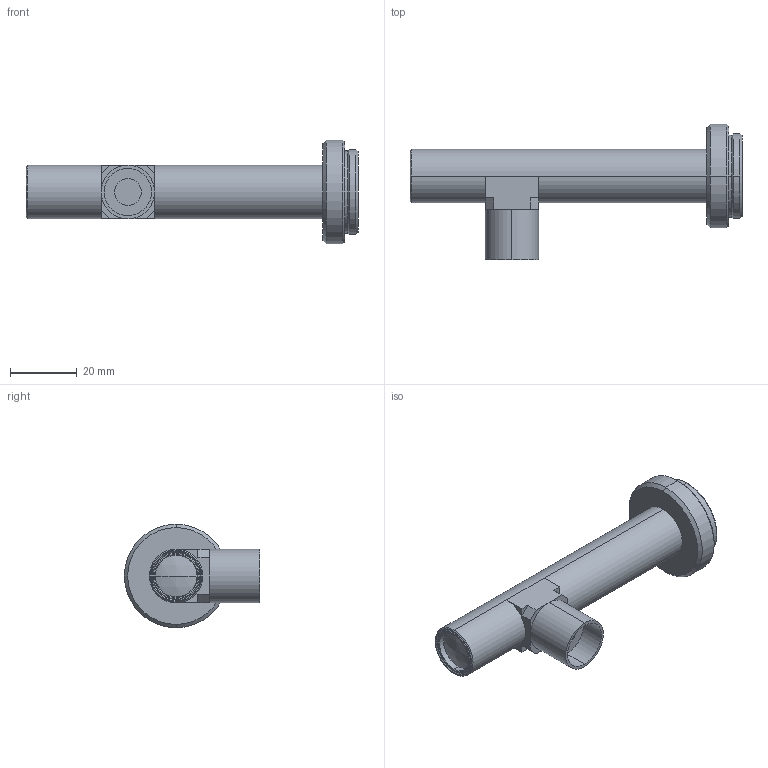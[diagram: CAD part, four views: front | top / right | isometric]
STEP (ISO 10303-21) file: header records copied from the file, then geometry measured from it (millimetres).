
FILE_DESCRIPTION (( 'STEP AP203' ), '1' );
FILE_NAME ('VS-TC1-65CO-16.STEP', '2015-07-17T07:06:17', ( 'miura_vst' ), ( '' ), 'SwSTEP 2.0', 'SolidWorks 2015', '' );
FILE_SCHEMA (( 'CONFIG_CONTROL_DESIGN' ));
Length unit declared in the file: millimetre
Products named in the file (1): VS-TC1-65CO-16
Bounding box: 99.4 x 40.5 x 31 mm (x, y, z)
Volume: 24749.1 mm3; surface area: 8891.1 mm2
Topology: 1 solids, 1 shells, 80 faces, 172 edges, 104 vertices
Faces by surface type: plane 27, cylinder 25, cone 24, sphere 4
Entity records: 2241 total; most frequent: DIRECTION 418, CARTESIAN_POINT 357, ORIENTED_EDGE 344, EDGE_CURVE 172, AXIS2_PLACEMENT_3D 165, VERTEX_POINT 104, EDGE_LOOP 90, LINE 88
